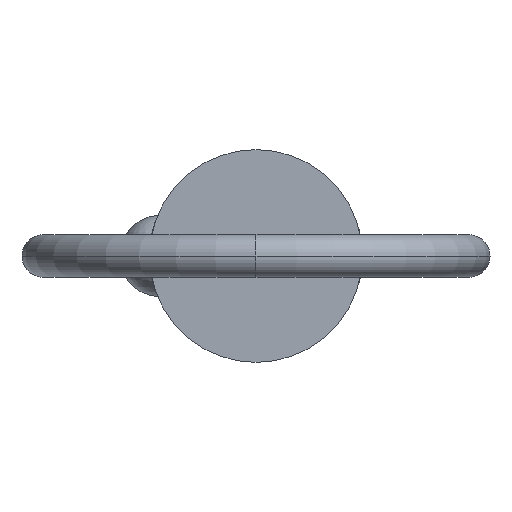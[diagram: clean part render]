
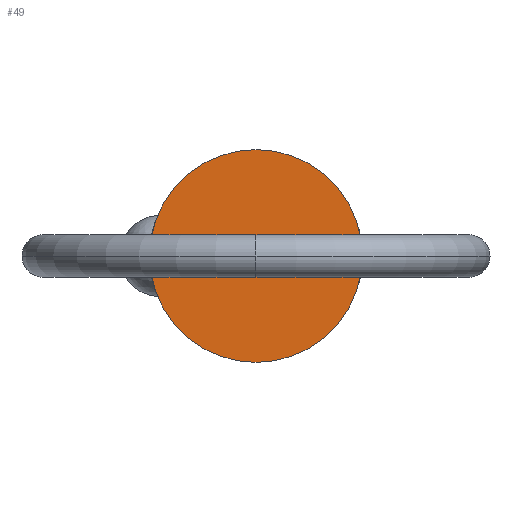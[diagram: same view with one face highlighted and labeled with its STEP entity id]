
A CAD part, left-side view. The second image highlights one B-rep face of the part: STEP entity #49.
In plain terms, the highlighted planar face has unit normal (-1, 0, 0).
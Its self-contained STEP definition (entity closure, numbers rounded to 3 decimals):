
#31 = ORIENTED_EDGE ( 'NONE', *, *, #127, .F. ) ;
#49 = ADVANCED_FACE ( 'NONE', ( #878 ), #56, .T. ) ;
#56 = PLANE ( 'NONE',  #901 ) ;
#63 = DIRECTION ( 'NONE',  ( 0., 0., -1. ) ) ;
#127 = EDGE_CURVE ( 'NONE', #746, #384, #520, .T. ) ;
#189 = CIRCLE ( 'NONE', #244, 9.525 ) ;
#244 = AXIS2_PLACEMENT_3D ( 'NONE', #437, #280, #367 ) ;
#280 = DIRECTION ( 'NONE',  ( 1., 0., 0. ) ) ;
#342 = CARTESIAN_POINT ( 'NONE',  ( 0., 0., 0. ) ) ;
#359 = ORIENTED_EDGE ( 'NONE', *, *, #377, .F. ) ;
#367 = DIRECTION ( 'NONE',  ( 0., 0., -1. ) ) ;
#377 = EDGE_CURVE ( 'NONE', #384, #746, #189, .T. ) ;
#384 = VERTEX_POINT ( 'NONE', #774 ) ;
#437 = CARTESIAN_POINT ( 'NONE',  ( 0., 0., 0. ) ) ;
#494 = EDGE_LOOP ( 'NONE', ( #31, #359 ) ) ;
#520 = CIRCLE ( 'NONE', #626, 9.525 ) ;
#538 = DIRECTION ( 'NONE',  ( 0., 0., 1. ) ) ;
#542 = CARTESIAN_POINT ( 'NONE',  ( 0., 0., -9.525 ) ) ;
#626 = AXIS2_PLACEMENT_3D ( 'NONE', #342, #696, #63 ) ;
#687 = DIRECTION ( 'NONE',  ( -1., 0., 0. ) ) ;
#696 = DIRECTION ( 'NONE',  ( 1., 0., 0. ) ) ;
#746 = VERTEX_POINT ( 'NONE', #542 ) ;
#750 = CARTESIAN_POINT ( 'NONE',  ( 0., 0., 0. ) ) ;
#774 = CARTESIAN_POINT ( 'NONE',  ( 0., 0., 9.525 ) ) ;
#878 = FACE_OUTER_BOUND ( 'NONE', #494, .T. ) ;
#901 = AXIS2_PLACEMENT_3D ( 'NONE', #750, #687, #538 ) ;
